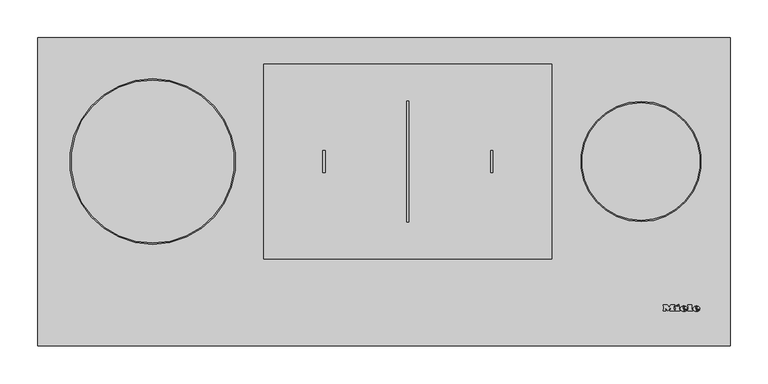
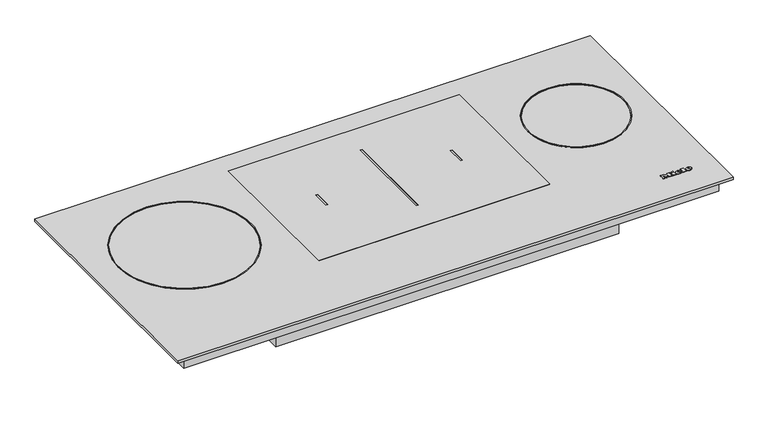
"""IFC4 building model written with IfcOpenShell, lengths in millimetres: proxy geometry, 11507800_NER_KM7689FL : 26768970_NER_11507800_KM7689FL."""

from ifc_helpers import new_model, si_unit, point, frame, frame_2d, origin, origin_with_axes, place, context, project, spatial, polyline, circle_curve, ellipse_curve, trimmed, segment, composite_curve, outline, extrude, source, transform, mapped, element, save
from ifc_brep_helpers import plane_surface, cylinder_surface, revolved_surface, extruded_surface, advanced_brep


def specialty_equipment_5bd18841(model_context):
    return source(origin(), model_context, "Body", "SolidModel", [
        advanced_brep(
        [(412.648, 47.8948833, 4.9922537), (412.648, 48.7028828, 4.9931551), (418.0, 48.7028828, 4.9931551), (408.688, 48.7028828, 4.9931551), (410.888, 45.9988845, 4.9901386), (417.864, 47.8948833, 4.9922537), (415.448, 47.8948833, 4.9922537), (413.544, 46.9988838, 4.9912542), (412.648, 49.7268821, 4.9942974), (412.648, 50.5988816, 4.9952701), (414.016, 50.5988816, 4.9952701), (414.016, 49.7268821, 4.9942974), (412.648, 47.8959988, 3.9922543), (413.544, 46.9999994, 3.9912548), (415.448, 47.8959988, 3.9922543), (417.864, 47.8959988, 3.9922543), (410.888, 46.0, 3.9901393), (408.688, 48.7039983, 3.9931557), (418.0, 48.7039983, 3.9931557), (412.648, 48.7039983, 3.9931557), (412.648, 49.7279977, 3.994298), (414.016, 49.7279977, 3.994298), (414.016, 50.5999971, 3.9952707), (412.648, 50.5999971, 3.9952707)],
        [
            (0, 1),
            (1, 2),
            (2, 3, ellipse_curve(frame((413.344, 48.7028828, 4.9931551), z_axis=(0.0, -0.0011155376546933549, 0.9999993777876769), x_axis=(-1.0, 0.0, 0.0)), 4.656, 3.848)),
            (3, 4, circle_curve(frame((411.7840436, 48.9748826, 4.9934585), z_axis=(0.0, -0.0011155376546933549, 0.9999993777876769), x_axis=(0.0, -0.9999993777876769, -0.0011155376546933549)), 3.1079688)),
            (4, 5, circle_curve(frame((413.2507936, 51.0868813, 4.9958145), z_axis=(0.0, -0.0011155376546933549, 0.9999993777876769), x_axis=(0.0, -0.9999993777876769, -0.0011155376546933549)), 5.6098607)),
            (5, 6),
            (6, 7, circle_curve(frame((413.9350588, 48.6388828, 4.9930837), z_axis=(0.0, 0.0011155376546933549, -0.9999993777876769), x_axis=(0.0, -0.9999993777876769, -0.0011155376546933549)), 1.6859795)),
            (7, 0, circle_curve(frame((413.544, 47.8948833, 4.9922537), z_axis=(0.0, 0.0011155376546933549, -0.9999993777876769), x_axis=(0.0, -0.9999993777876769, -0.0011155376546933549)), 0.896)),
            (8, 9),
            (9, 10, circle_curve(frame((413.332, 50.5988816, 4.9952701), z_axis=(0.0, 0.0011155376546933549, -0.9999993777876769), x_axis=(0.0, -0.9999993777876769, -0.0011155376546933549)), 0.684)),
            (10, 11),
            (11, 8),
            (12, 13, circle_curve(frame((413.544, 47.8959988, 3.9922543), z_axis=(0.0, -0.0011155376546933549, 0.9999993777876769), x_axis=(0.0, -0.9999993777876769, -0.0011155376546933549)), 0.896)),
            (13, 14, circle_curve(frame((413.9350588, 48.6399984, 3.9930843), z_axis=(0.0, -0.0011155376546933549, 0.9999993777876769), x_axis=(0.0, -0.9999993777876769, -0.0011155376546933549)), 1.6859795)),
            (14, 15),
            (15, 16, circle_curve(frame((413.2507936, 51.0879968, 3.9958151), z_axis=(0.0, 0.0011155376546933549, -0.9999993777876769), x_axis=(0.0, -0.9999993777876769, -0.0011155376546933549)), 5.6098607)),
            (16, 17, circle_curve(frame((411.7840436, 48.9759981, 3.9934591), z_axis=(0.0, 0.0011155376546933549, -0.9999993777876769), x_axis=(0.0, -0.9999993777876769, -0.0011155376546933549)), 3.1079688)),
            (17, 18, ellipse_curve(frame((413.344, 48.7039983, 3.9931557), z_axis=(0.0, 0.0011155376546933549, -0.9999993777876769), x_axis=(-1.0, 0.0, 0.0)), 4.656, 3.848)),
            (18, 19),
            (19, 12),
            (20, 21),
            (21, 22),
            (22, 23, circle_curve(frame((413.332, 50.5999971, 3.9952707), z_axis=(0.0, -0.0011155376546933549, 0.9999993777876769), x_axis=(0.0, -0.9999993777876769, -0.0011155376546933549)), 0.684)),
            (23, 20),
            (0, 12),
            (19, 1),
            (18, 2),
            (5, 15),
            (14, 6),
            (17, 3),
            (13, 7),
            (16, 4),
            (8, 20),
            (23, 9),
            (22, 10),
            (21, 11),
        ],
        [
            plane_surface(frame((412.648, 48.7028828, 4.9931551), z_axis=(0.0, -0.0011155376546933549, 0.9999993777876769), x_axis=(0.0, 0.9999993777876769, 0.0011155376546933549))),
            plane_surface(frame((412.648, 48.7039983, 3.9931557), z_axis=(0.0, 0.0011155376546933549, -0.9999993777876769), x_axis=(0.0, -0.9999993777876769, -0.0011155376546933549))),
            plane_surface(frame((412.648, 47.8948833, 4.9922537), z_axis=(1.0000000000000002, 0.0, 0.0), x_axis=(0.0, 0.001115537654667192, -0.999999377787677))),
            plane_surface(frame((412.648, 48.7028828, 4.9931551), z_axis=(0.0, -0.999999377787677, -0.001115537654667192), x_axis=(0.0, 0.001115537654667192, -0.999999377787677))),
            plane_surface(frame((417.864, 47.8948833, 4.9922537), z_axis=(0.0, 0.999999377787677, 0.001115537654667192), x_axis=(0.0, 0.001115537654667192, -0.999999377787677))),
            extruded_surface(trimmed(ellipse_curve(frame((413.344, 48.7051139, 2.9931563), z_axis=(0.0, -0.0011155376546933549, 0.9999993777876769), x_axis=(-1.0, 0.0, 0.0)), 4.656, 3.848), [point((418.0, 48.7051139, 2.9931563))], [point((408.688, 48.7051139, 2.9931563))], True, "CARTESIAN"), (0.0, -0.001115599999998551, 0.9999994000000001), 1.00000002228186),
            revolved_surface(polyline([(413.9350588, 46.954019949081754, 3.991203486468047), (413.9350588, 46.95290441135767, 4.99120292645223)]), (413.9350588, 48.6399984, 3.9930843), (0.0, 0.0011155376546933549, -0.9999993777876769)),
            revolved_surface(polyline([(413.544, 46.99999935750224, 3.9912547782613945), (413.544, 46.99888381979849, 4.991254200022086)]), (413.544, 47.8959988, 3.9922543), (0.0, 0.0011155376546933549, -0.9999993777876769)),
            cylinder_surface(frame((411.7840436, 48.9759981, 3.9934591), z_axis=(0.0, -0.0011155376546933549, 0.9999993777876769), x_axis=(0.0, -0.9999993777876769, -0.0011155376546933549)), 3.1079688),
            cylinder_surface(frame((413.2507936, 51.0879968, 3.9958151), z_axis=(0.0, -0.0011155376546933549, 0.9999993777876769), x_axis=(0.0, -0.9999993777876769, -0.0011155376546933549)), 5.6098607),
            plane_surface(frame((412.648, 49.7268821, 4.9942974), z_axis=(1.0000000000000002, 0.0, 0.0), x_axis=(0.0, 0.001115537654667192, -0.999999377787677))),
            revolved_surface(polyline([(413.332, 49.915997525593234, 3.9945076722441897), (413.332, 49.91488198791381, 4.994507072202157)]), (413.332, 50.5999971, 3.9952707), (0.0, 0.0011155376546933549, -0.9999993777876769)),
            plane_surface(frame((414.016, 50.5988816, 4.9952701), z_axis=(-1.0000000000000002, 0.0, 0.0), x_axis=(0.0, 0.001115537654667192, -0.999999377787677))),
            plane_surface(frame((414.016, 49.7268821, 4.9942974), z_axis=(0.0, 0.999999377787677, 0.001115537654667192), x_axis=(0.0, 0.001115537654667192, -0.999999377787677))),
        ],
        [
            (0, [[1, 2, 3, 4, 5, 6, 7, 8], [9, 10, 11, 12]]),
            (1, [[13, 14, 15, 16, 17, 18, 19, 20], [21, 22, 23, 24]]),
            (2, [[-1, 25, -20, 26]]),
            (3, [[-2, -26, -19, 27]]),
            (4, [[-6, 28, -15, 29]]),
            (5, [[-3, -27, -18, 30]]),
            (6, [[-7, -29, -14, 31]]),
            (7, [[-8, -31, -13, -25]]),
            (8, [[-4, -30, -17, 32]]),
            (9, [[-5, -32, -16, -28]]),
            (10, [[-9, 33, -24, 34]]),
            (11, [[-10, -34, -23, 35]]),
            (12, [[-11, -35, -22, 36]]),
            (13, [[-12, -36, -21, -33]]),
        ],
    ),
        advanced_brep(
        [(395.952, 47.8948833, 4.9922537), (395.952, 48.7028828, 4.9931551), (401.304, 48.7028828, 4.9931551), (391.992, 48.7028828, 4.9931551), (394.192, 45.9988845, 4.9901386), (401.168, 47.8948833, 4.9922537), (398.752, 47.8948833, 4.9922537), (396.848, 46.9988838, 4.9912542), (395.952, 49.7268821, 4.9942974), (395.952, 50.5988816, 4.9952701), (397.32, 50.5988816, 4.9952701), (397.32, 49.7268821, 4.9942974), (395.952, 47.8959988, 3.9922543), (396.848, 46.9999994, 3.9912548), (398.752, 47.8959988, 3.9922543), (401.168, 47.8959988, 3.9922543), (394.192, 46.0, 3.9901393), (391.992, 48.7039983, 3.9931557), (401.304, 48.7039983, 3.9931557), (395.952, 48.7039983, 3.9931557), (395.952, 49.7279977, 3.994298), (397.32, 49.7279977, 3.994298), (397.32, 50.5999971, 3.9952707), (395.952, 50.5999971, 3.9952707)],
        [
            (0, 1),
            (1, 2),
            (2, 3, ellipse_curve(frame((396.648, 48.7028828, 4.9931551), z_axis=(0.0, -0.0011155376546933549, 0.9999993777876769), x_axis=(-1.0, 0.0, 0.0)), 4.656, 3.848)),
            (3, 4, circle_curve(frame((395.0880436, 48.9748826, 4.9934585), z_axis=(0.0, -0.0011155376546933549, 0.9999993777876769), x_axis=(0.0, -0.9999993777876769, -0.0011155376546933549)), 3.1079688)),
            (4, 5, circle_curve(frame((396.5547936, 51.0868813, 4.9958145), z_axis=(0.0, -0.0011155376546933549, 0.9999993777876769), x_axis=(0.0, -0.9999993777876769, -0.0011155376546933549)), 5.6098607)),
            (5, 6),
            (6, 7, circle_curve(frame((397.2390588, 48.6388828, 4.9930837), z_axis=(0.0, 0.0011155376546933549, -0.9999993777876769), x_axis=(0.0, -0.9999993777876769, -0.0011155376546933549)), 1.6859795)),
            (7, 0, circle_curve(frame((396.848, 47.8948833, 4.9922537), z_axis=(0.0, 0.0011155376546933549, -0.9999993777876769), x_axis=(0.0, -0.9999993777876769, -0.0011155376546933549)), 0.896)),
            (8, 9),
            (9, 10, circle_curve(frame((396.636, 50.5988816, 4.9952701), z_axis=(0.0, 0.0011155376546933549, -0.9999993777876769), x_axis=(0.0, -0.9999993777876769, -0.0011155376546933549)), 0.684)),
            (10, 11),
            (11, 8),
            (12, 13, circle_curve(frame((396.848, 47.8959988, 3.9922543), z_axis=(0.0, -0.0011155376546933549, 0.9999993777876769), x_axis=(0.0, -0.9999993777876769, -0.0011155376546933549)), 0.896)),
            (13, 14, circle_curve(frame((397.2390588, 48.6399984, 3.9930843), z_axis=(0.0, -0.0011155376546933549, 0.9999993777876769), x_axis=(0.0, -0.9999993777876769, -0.0011155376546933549)), 1.6859795)),
            (14, 15),
            (15, 16, circle_curve(frame((396.5547936, 51.0879968, 3.9958151), z_axis=(0.0, 0.0011155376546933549, -0.9999993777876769), x_axis=(0.0, -0.9999993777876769, -0.0011155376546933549)), 5.6098607)),
            (16, 17, circle_curve(frame((395.0880436, 48.9759981, 3.9934591), z_axis=(0.0, 0.0011155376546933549, -0.9999993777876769), x_axis=(0.0, -0.9999993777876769, -0.0011155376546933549)), 3.1079688)),
            (17, 18, ellipse_curve(frame((396.648, 48.7039983, 3.9931557), z_axis=(0.0, 0.0011155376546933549, -0.9999993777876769), x_axis=(-1.0, 0.0, 0.0)), 4.656, 3.848)),
            (18, 19),
            (19, 12),
            (20, 21),
            (21, 22),
            (22, 23, circle_curve(frame((396.636, 50.5999971, 3.9952707), z_axis=(0.0, -0.0011155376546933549, 0.9999993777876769), x_axis=(0.0, -0.9999993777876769, -0.0011155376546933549)), 0.684)),
            (23, 20),
            (0, 12),
            (19, 1),
            (18, 2),
            (5, 15),
            (14, 6),
            (17, 3),
            (13, 7),
            (16, 4),
            (8, 20),
            (23, 9),
            (22, 10),
            (21, 11),
        ],
        [
            plane_surface(frame((395.952, 48.7028828, 4.9931551), z_axis=(0.0, -0.0011155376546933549, 0.9999993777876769), x_axis=(0.0, 0.9999993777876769, 0.0011155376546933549))),
            plane_surface(frame((395.952, 48.7039983, 3.9931557), z_axis=(0.0, 0.0011155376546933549, -0.9999993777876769), x_axis=(0.0, -0.9999993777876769, -0.0011155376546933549))),
            plane_surface(frame((395.952, 47.8948833, 4.9922537), z_axis=(1.0000000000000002, 0.0, 0.0), x_axis=(0.0, 0.001115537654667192, -0.999999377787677))),
            plane_surface(frame((395.952, 48.7028828, 4.9931551), z_axis=(0.0, -0.999999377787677, -0.001115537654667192), x_axis=(0.0, 0.001115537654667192, -0.999999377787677))),
            plane_surface(frame((401.168, 47.8948833, 4.9922537), z_axis=(0.0, 0.999999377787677, 0.001115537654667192), x_axis=(0.0, 0.001115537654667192, -0.999999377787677))),
            extruded_surface(trimmed(ellipse_curve(frame((396.648, 48.7051139, 2.9931563), z_axis=(0.0, -0.0011155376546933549, 0.9999993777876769), x_axis=(-1.0, 0.0, 0.0)), 4.656, 3.848), [point((401.304, 48.7051139, 2.9931563))], [point((391.992, 48.7051139, 2.9931563))], True, "CARTESIAN"), (0.0, -0.001115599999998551, 0.9999994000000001), 1.00000002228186),
            revolved_surface(polyline([(397.2390588, 46.954019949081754, 3.991203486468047), (397.2390588, 46.95290441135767, 4.99120292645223)]), (397.2390588, 48.6399984, 3.9930843), (0.0, 0.0011155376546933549, -0.9999993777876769)),
            revolved_surface(polyline([(396.848, 46.99999935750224, 3.9912547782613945), (396.848, 46.99888381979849, 4.991254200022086)]), (396.848, 47.8959988, 3.9922543), (0.0, 0.0011155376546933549, -0.9999993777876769)),
            cylinder_surface(frame((395.0880436, 48.9759981, 3.9934591), z_axis=(0.0, -0.0011155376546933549, 0.9999993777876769), x_axis=(0.0, -0.9999993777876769, -0.0011155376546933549)), 3.1079688),
            cylinder_surface(frame((396.5547936, 51.0879968, 3.9958151), z_axis=(0.0, -0.0011155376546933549, 0.9999993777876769), x_axis=(0.0, -0.9999993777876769, -0.0011155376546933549)), 5.6098607),
            plane_surface(frame((395.952, 49.7268821, 4.9942974), z_axis=(1.0000000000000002, 0.0, 0.0), x_axis=(0.0, 0.001115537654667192, -0.999999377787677))),
            revolved_surface(polyline([(396.636, 49.915997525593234, 3.9945076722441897), (396.636, 49.91488198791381, 4.994507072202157)]), (396.636, 50.5999971, 3.9952707), (0.0, 0.0011155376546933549, -0.9999993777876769)),
            plane_surface(frame((397.32, 50.5988816, 4.9952701), z_axis=(-1.0000000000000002, 0.0, 0.0), x_axis=(0.0, 0.001115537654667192, -0.999999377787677))),
            plane_surface(frame((397.32, 49.7268821, 4.9942974), z_axis=(0.0, 0.999999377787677, 0.001115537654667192), x_axis=(0.0, 0.001115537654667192, -0.999999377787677))),
        ],
        [
            (0, [[1, 2, 3, 4, 5, 6, 7, 8], [9, 10, 11, 12]]),
            (1, [[13, 14, 15, 16, 17, 18, 19, 20], [21, 22, 23, 24]]),
            (2, [[-1, 25, -20, 26]]),
            (3, [[-2, -26, -19, 27]]),
            (4, [[-6, 28, -15, 29]]),
            (5, [[-3, -27, -18, 30]]),
            (6, [[-7, -29, -14, 31]]),
            (7, [[-8, -31, -13, -25]]),
            (8, [[-4, -30, -17, 32]]),
            (9, [[-5, -32, -16, -28]]),
            (10, [[-9, 33, -24, 34]]),
            (11, [[-10, -34, -23, 35]]),
            (12, [[-11, -35, -22, 36]]),
            (13, [[-12, -36, -21, -33]]),
        ],
    ),
        extrude(outline(polyline([(0.0, 0.0), (-0.0109086, -2.9993294), (-1.4390415, -2.9920868), (-1.4315307, 0.0), (0.0, 0.0)])), frame((387.208, 53.5279953, 3.998537), z_axis=(0.0, -0.001115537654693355, 0.999999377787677), x_axis=(-0.4247202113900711, 0.9053240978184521, 0.0010099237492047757)), (0.0, 0.0, 1.0), 1.0),
        extrude(outline(polyline([(-0.4933908, 2.4141097), (-2.7800844, -2.4601583), (-7.0459741, -0.4588767), (-7.4401145, -1.299018), (-8.6568709, -0.728194), (-5.9760369, 4.9862153), (-4.7592805, 4.4153913), (-5.1636142, 3.5535222), (-2.1941493, 2.1604399), (-1.7898157, 3.022309), (-0.4933908, 2.4141097)])), frame((387.208, 53.5279953, 3.998537), z_axis=(0.0, -0.001115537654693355, 0.999999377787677), x_axis=(-0.4247202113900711, 0.9053240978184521, 0.0010099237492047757)), (0.0, 0.0, 1.0), 1.0),
        extrude(outline(polyline([(0.0, 0.0), (0.0, -1.304), (-5.504, -1.304), (-5.504, 5.3519999), (-6.488, 5.3519999), (-6.488, 6.696), (0.0, 6.696), (0.0, 5.3519999), (-0.96, 5.3519999), (-0.96, 0.0), (0.0, 0.0)])), frame((401.752, 52.6959958, 3.9976089), z_axis=(0.0, -0.0011155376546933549, 0.9999993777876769), x_axis=(-1.0, 0.0, 0.0)), (0.0, 0.0, 1.0), 1.0),
        extrude(outline(polyline([(0.0, 0.0), (0.0, -1.304), (-5.576, -1.304), (-7.92, 1.696), (-10.256, -1.304), (-15.128, -1.304), (-15.128, 0.0), (-14.112, 0.0), (-14.112, 5.3519999), (-15.128, 5.3519999), (-15.128, 6.696), (-8.744, 6.696), (-8.744, 5.3519999), (-9.728, 5.3519999), (-9.728, 1.8807777), (-6.136, 6.696), (-2.56, 1.9488752), (-2.56, 5.3519999), (-3.52, 5.3519999), (-3.52, 6.696), (0.0, 6.696), (0.0, 5.3519999), (-0.968, 5.3519999), (-0.968, 0.0), (0.0, 0.0)])), frame((369.288, 52.6959958, 3.9976089), z_axis=(0.0, -0.0011155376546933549, 0.9999993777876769), x_axis=(-1.0, 0.0, 0.0)), (0.0, 0.0, 1.0), 1.0),
        extrude(outline(polyline([(212.3772603, 355.0), (205.0, 355.0), (205.0, 356.2557039), (211.1215564, 356.2557039), (211.1215564, 359.5519266), (205.470889, 359.5519266), (205.470889, 360.8076304), (211.1215564, 360.8076304), (211.1215564, 363.7899271), (205.156963, 363.7899271), (205.156963, 365.045631), (212.3772603, 365.045631), (212.3772603, 355.0)])), frame((0.0, 0.0, -78.0), z_axis=(0.0, 0.0, 1.0), x_axis=(1.0, 0.0, 0.0)), (0.0, 0.0, 1.0), 1.0),
        extrude(outline(polyline([(203.1164442, 355.0), (196.8379248, 355.0), (196.8379248, 356.2557039), (201.8607403, 356.2557039), (201.8607403, 365.045631), (203.1164442, 365.045631), (203.1164442, 355.0)])), frame((0.0, 0.0, -78.0), z_axis=(0.0, 0.0, 1.0), x_axis=(1.0, 0.0, 0.0)), (0.0, 0.0, 1.0), 1.0),
        extrude(outline(polyline([(458.0, 408.0), (458.0, 0.0), (-458.0, 0.0), (-458.0, 408.0), (458.0, 408.0)])), origin_with_axes(), (0.0, 0.0, 1.0), 4.0),
        extrude(outline(polyline([(441.5, 396.0), (441.5, 12.0), (-441.5, 12.0), (-441.5, 396.0), (441.5, 396.0)])), frame((0.0, 0.0, -22.0), z_axis=(0.0, 0.0, 1.0), x_axis=(1.0, 0.0, 0.0)), (0.0, 0.0, 1.0), 22.0),
        extrude(outline(composite_curve([segment(trimmed(circle_curve(frame_2d((340.0, 244.0)), 79.5), [point((340.0, 323.5))], [point((340.0, 164.5))], False, "CARTESIAN"), True, "CONTINUOUS"), segment(trimmed(circle_curve(frame_2d((340.0, 244.0)), 79.5), [point((340.0, 164.5))], [point((340.0, 323.5))], False, "CARTESIAN"), True, "CONTINUOUS")], self_intersect=False), holes=[composite_curve([segment(trimmed(circle_curve(frame_2d((340.0, 244.0)), 78.0), [point((340.0, 322.0))], [point((340.0, 166.0))], True, "CARTESIAN"), True, "CONTINUOUS"), segment(trimmed(circle_curve(frame_2d((340.0, 244.0)), 78.0), [point((340.0, 166.0))], [point((340.0, 322.0))], True, "CARTESIAN"), True, "CONTINUOUS")], self_intersect=False)]), frame((0.0, 0.0, 4.0), z_axis=(0.0, 0.0, 1.0), x_axis=(1.0, 0.0, 0.0)), (0.0, 0.0, 1.0), 1.0),
        extrude(outline(composite_curve([segment(trimmed(circle_curve(frame_2d((-306.0, 244.0)), 109.5), [point((-306.0, 353.5))], [point((-306.0, 134.5))], False, "CARTESIAN"), True, "CONTINUOUS"), segment(trimmed(circle_curve(frame_2d((-306.0, 244.0)), 109.5), [point((-306.0, 134.5))], [point((-306.0, 353.5))], False, "CARTESIAN"), True, "CONTINUOUS")], self_intersect=False), holes=[composite_curve([segment(trimmed(circle_curve(frame_2d((-306.0, 244.0)), 108.0), [point((-306.0, 352.0))], [point((-306.0, 136.0))], True, "CARTESIAN"), True, "CONTINUOUS"), segment(trimmed(circle_curve(frame_2d((-306.0, 244.0)), 108.0), [point((-306.0, 136.0))], [point((-306.0, 352.0))], True, "CARTESIAN"), True, "CONTINUOUS")], self_intersect=False)]), frame((0.0, 0.0, 4.0), z_axis=(0.0, 0.0, 1.0), x_axis=(1.0, 0.0, 0.0)), (0.0, 0.0, 1.0), 1.0),
        extrude(outline(polyline([(222.0, 373.0), (222.0, 115.0), (-159.0, 115.0), (-159.0, 373.0), (222.0, 373.0)]), holes=[polyline([(-78.0, 229.5), (-78.0, 258.5), (-81.0, 258.5), (-81.0, 229.5), (-78.0, 229.5)]), polyline([(30.0, 324.0), (30.0, 164.0), (33.0, 164.0), (33.0, 324.0), (30.0, 324.0)]), polyline([(141.0, 258.5), (141.0, 229.5), (144.0, 229.5), (144.0, 258.5), (141.0, 258.5)])]), frame((0.0, 0.0, 4.0), z_axis=(0.0, 0.0, 1.0), x_axis=(1.0, 0.0, 0.0)), (0.0, 0.0, 1.0), 1.0),
        extrude(outline(composite_curve([segment(trimmed(circle_curve(frame_2d((205.0, 360.0)), 7.5), [point((205.0, 367.5))], [point((205.0, 352.5))], False, "CARTESIAN"), True, "CONTINUOUS"), segment(trimmed(circle_curve(frame_2d((205.0, 360.0)), 7.5), [point((205.0, 352.5))], [point((205.0, 367.5))], False, "CARTESIAN"), True, "CONTINUOUS")], self_intersect=False)), frame((0.0, 0.0, -77.0), z_axis=(0.0, 0.0, 1.0), x_axis=(1.0, 0.0, 0.0)), (0.0, 0.0, 1.0), 30.0),
        extrude(outline(polyline([(283.0, 394.0), (283.0, 23.0), (-283.0, 23.0), (-283.0, 394.0), (283.0, 394.0)])), frame((0.0, 0.0, -47.0), z_axis=(0.0, 0.0, 1.0), x_axis=(1.0, 0.0, 0.0)), (0.0, 0.0, 1.0), 25.0),
    ])


if __name__ == "__main__":
    model = new_model("IFC4")
    model_context = context("Model", 3, world=origin())
    ifc_project = project(units=[si_unit("LENGTHUNIT", "METRE", prefix="MILLI")], contexts=[model_context])
    site = spatial("IfcSite", under=ifc_project)
    building = spatial("IfcBuilding", under=site)
    placement = place(None, origin())
    specialty_equipment_shape = specialty_equipment_5bd18841(model_context)
    element("IfcBuildingElementProxy", 1, Name="11507800_NER_KM7689FL : 26768970_NER_11507800_KM7689FL", ObjectType="11507800_NER_KM7689FL : 26768970_NER_11507800_KM7689FL", at=placement, inside=building, context=model_context, shape_type="MappedRepresentation", body=[
        mapped(specialty_equipment_shape, transform((0.0, 0.0, 0.0), x_axis=(1.0, 0.0, 0.0), y_axis=(0.0, 1.0, 0.0), z_axis=(0.0, 0.0, 1.0))),
    ])
    save(model, "model.ifc")
